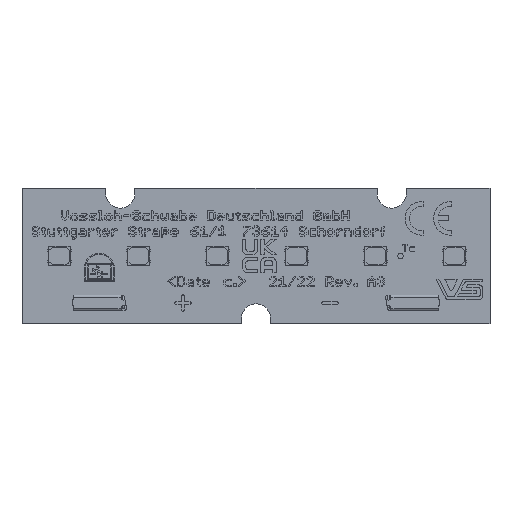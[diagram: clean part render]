
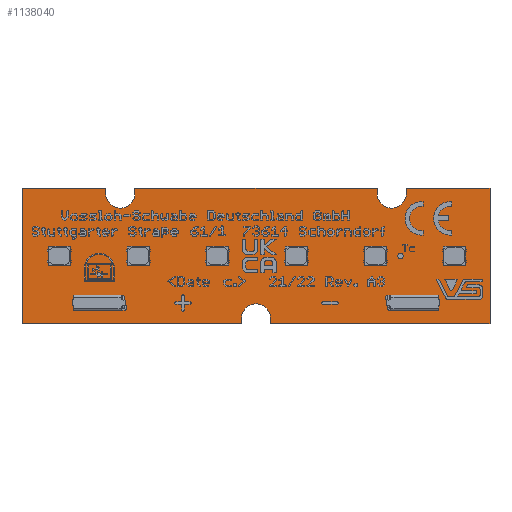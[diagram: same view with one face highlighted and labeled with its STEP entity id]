
A CAD part, top view. The second image highlights one B-rep face of the part: STEP entity #1138040.
In plain terms, the highlighted planar face has unit normal (0, 0, 1).
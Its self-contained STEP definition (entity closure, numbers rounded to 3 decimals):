
#1136660=CARTESIAN_POINT('',(0.,0.,0.));
#1136670=DIRECTION('',(0.,0.,1.));
#1136680=DIRECTION('',(1.,0.,0.));
#1136690=AXIS2_PLACEMENT_3D('',#1136660,#1136670,#1136680);
#1136700=PLANE('',#1136690);
#1136710=CARTESIAN_POINT('',(3.238,25.031,0.));
#1136720=DIRECTION('',(0.,-1.,0.));
#1136730=VECTOR('',#1136720,1.);
#1136740=LINE('',#1136710,#1136730);
#1136750=CARTESIAN_POINT('',(3.238,25.031,0.));
#1136760=VERTEX_POINT('',#1136750);
#1136770=CARTESIAN_POINT('',(3.238,5.031,0.));
#1136780=VERTEX_POINT('',#1136770);
#1136790=EDGE_CURVE('',#1136760,#1136780,#1136740,.T.);
#1136800=ORIENTED_EDGE('',*,*,#1136790,.T.);
#1136810=CARTESIAN_POINT('',(15.588,25.031,0.));
#1136820=DIRECTION('',(-1.,0.,0.));
#1136830=VECTOR('',#1136820,1.);
#1136840=LINE('',#1136810,#1136830);
#1136850=CARTESIAN_POINT('',(15.588,25.031,0.));
#1136860=VERTEX_POINT('',#1136850);
#1136870=EDGE_CURVE('',#1136860,#1136760,#1136840,.T.);
#1136880=ORIENTED_EDGE('',*,*,#1136870,.T.);
#1136890=CARTESIAN_POINT('',(15.588,24.231,0.));
#1136900=DIRECTION('',(0.,1.,0.));
#1136910=VECTOR('',#1136900,1.);
#1136920=LINE('',#1136890,#1136910);
#1136930=CARTESIAN_POINT('',(15.588,24.231,0.));
#1136940=VERTEX_POINT('',#1136930);
#1136950=EDGE_CURVE('',#1136940,#1136860,#1136920,.T.);
#1136960=ORIENTED_EDGE('',*,*,#1136950,.T.);
#1136970=CARTESIAN_POINT('',(17.738,24.231,0.));
#1136980=DIRECTION('',(0.,0.,-1.));
#1136990=DIRECTION('',(1.,0.,0.));
#1137000=AXIS2_PLACEMENT_3D('',#1136970,#1136980,#1136990);
#1137010=CIRCLE('',#1137000,2.15);
#1137020=CARTESIAN_POINT('',(19.888,24.231,0.));
#1137030=VERTEX_POINT('',#1137020);
#1137040=EDGE_CURVE('',#1137030,#1136940,#1137010,.T.);
#1137050=ORIENTED_EDGE('',*,*,#1137040,.T.);
#1137060=CARTESIAN_POINT('',(19.888,25.031,0.));
#1137070=DIRECTION('',(0.,-1.,0.));
#1137080=VECTOR('',#1137070,1.);
#1137090=LINE('',#1137060,#1137080);
#1137100=CARTESIAN_POINT('',(19.888,25.031,0.));
#1137110=VERTEX_POINT('',#1137100);
#1137120=EDGE_CURVE('',#1137110,#1137030,#1137090,.T.);
#1137130=ORIENTED_EDGE('',*,*,#1137120,.T.);
#1137140=CARTESIAN_POINT('',(55.588,25.031,0.));
#1137150=DIRECTION('',(-1.,0.,0.));
#1137160=VECTOR('',#1137150,1.);
#1137170=LINE('',#1137140,#1137160);
#1137180=CARTESIAN_POINT('',(55.588,25.031,0.));
#1137190=VERTEX_POINT('',#1137180);
#1137200=EDGE_CURVE('',#1137190,#1137110,#1137170,.T.);
#1137210=ORIENTED_EDGE('',*,*,#1137200,.T.);
#1137220=CARTESIAN_POINT('',(55.588,24.231,0.));
#1137230=DIRECTION('',(0.,1.,0.));
#1137240=VECTOR('',#1137230,1.);
#1137250=LINE('',#1137220,#1137240);
#1137260=CARTESIAN_POINT('',(55.588,24.231,0.));
#1137270=VERTEX_POINT('',#1137260);
#1137280=EDGE_CURVE('',#1137270,#1137190,#1137250,.T.);
#1137290=ORIENTED_EDGE('',*,*,#1137280,.T.);
#1137300=CARTESIAN_POINT('',(57.738,24.231,0.));
#1137310=DIRECTION('',(0.,0.,-1.));
#1137320=DIRECTION('',(1.,0.,0.));
#1137330=AXIS2_PLACEMENT_3D('',#1137300,#1137310,#1137320);
#1137340=CIRCLE('',#1137330,2.15);
#1137350=CARTESIAN_POINT('',(59.888,24.231,0.));
#1137360=VERTEX_POINT('',#1137350);
#1137370=EDGE_CURVE('',#1137360,#1137270,#1137340,.T.);
#1137380=ORIENTED_EDGE('',*,*,#1137370,.T.);
#1137390=CARTESIAN_POINT('',(59.888,25.031,0.));
#1137400=DIRECTION('',(0.,-1.,0.));
#1137410=VECTOR('',#1137400,1.);
#1137420=LINE('',#1137390,#1137410);
#1137430=CARTESIAN_POINT('',(59.888,25.031,0.));
#1137440=VERTEX_POINT('',#1137430);
#1137450=EDGE_CURVE('',#1137440,#1137360,#1137420,.T.);
#1137460=ORIENTED_EDGE('',*,*,#1137450,.T.);
#1137470=CARTESIAN_POINT('',(72.238,25.031,0.));
#1137480=DIRECTION('',(-1.,0.,0.));
#1137490=VECTOR('',#1137480,1.);
#1137500=LINE('',#1137470,#1137490);
#1137510=CARTESIAN_POINT('',(72.238,25.031,0.));
#1137520=VERTEX_POINT('',#1137510);
#1137530=EDGE_CURVE('',#1137520,#1137440,#1137500,.T.);
#1137540=ORIENTED_EDGE('',*,*,#1137530,.T.);
#1137550=CARTESIAN_POINT('',(72.238,5.031,0.));
#1137560=DIRECTION('',(0.,1.,0.));
#1137570=VECTOR('',#1137560,1.);
#1137580=LINE('',#1137550,#1137570);
#1137590=CARTESIAN_POINT('',(72.238,5.031,0.));
#1137600=VERTEX_POINT('',#1137590);
#1137610=EDGE_CURVE('',#1137600,#1137520,#1137580,.T.);
#1137620=ORIENTED_EDGE('',*,*,#1137610,.T.);
#1137630=CARTESIAN_POINT('',(39.888,5.031,0.));
#1137640=DIRECTION('',(1.,0.,0.));
#1137650=VECTOR('',#1137640,1.);
#1137660=LINE('',#1137630,#1137650);
#1137670=CARTESIAN_POINT('',(39.888,5.031,0.));
#1137680=VERTEX_POINT('',#1137670);
#1137690=EDGE_CURVE('',#1137680,#1137600,#1137660,.T.);
#1137700=ORIENTED_EDGE('',*,*,#1137690,.T.);
#1137710=CARTESIAN_POINT('',(39.888,5.831,0.));
#1137720=DIRECTION('',(0.,-1.,0.));
#1137730=VECTOR('',#1137720,1.);
#1137740=LINE('',#1137710,#1137730);
#1137750=CARTESIAN_POINT('',(39.888,5.831,0.));
#1137760=VERTEX_POINT('',#1137750);
#1137770=EDGE_CURVE('',#1137760,#1137680,#1137740,.T.);
#1137780=ORIENTED_EDGE('',*,*,#1137770,.T.);
#1137790=CARTESIAN_POINT('',(37.738,5.831,0.));
#1137800=DIRECTION('',(-0.,0.,-1.));
#1137810=DIRECTION('',(-1.,0.,0.));
#1137820=AXIS2_PLACEMENT_3D('',#1137790,#1137800,#1137810);
#1137830=CIRCLE('',#1137820,2.15);
#1137840=CARTESIAN_POINT('',(35.588,5.831,0.));
#1137850=VERTEX_POINT('',#1137840);
#1137860=EDGE_CURVE('',#1137850,#1137760,#1137830,.T.);
#1137870=ORIENTED_EDGE('',*,*,#1137860,.T.);
#1137880=CARTESIAN_POINT('',(35.588,5.031,0.));
#1137890=DIRECTION('',(0.,1.,0.));
#1137900=VECTOR('',#1137890,1.);
#1137910=LINE('',#1137880,#1137900);
#1137920=CARTESIAN_POINT('',(35.588,5.031,0.));
#1137930=VERTEX_POINT('',#1137920);
#1137940=EDGE_CURVE('',#1137930,#1137850,#1137910,.T.);
#1137950=ORIENTED_EDGE('',*,*,#1137940,.T.);
#1137960=CARTESIAN_POINT('',(3.238,5.031,0.));
#1137970=DIRECTION('',(1.,0.,0.));
#1137980=VECTOR('',#1137970,1.);
#1137990=LINE('',#1137960,#1137980);
#1138000=EDGE_CURVE('',#1136780,#1137930,#1137990,.T.);
#1138010=ORIENTED_EDGE('',*,*,#1138000,.T.);
#1138020=EDGE_LOOP('',(#1138010,#1137950,#1137870,#1137780,#1137700,
#1137620,#1137540,#1137460,#1137380,#1137290,#1137210,#1137130,#1137050,
#1136960,#1136880,#1136800));
#1138030=FACE_OUTER_BOUND('',#1138020,.T.);
#1138040=ADVANCED_FACE('',(#1138030),#1136700,.T.);
